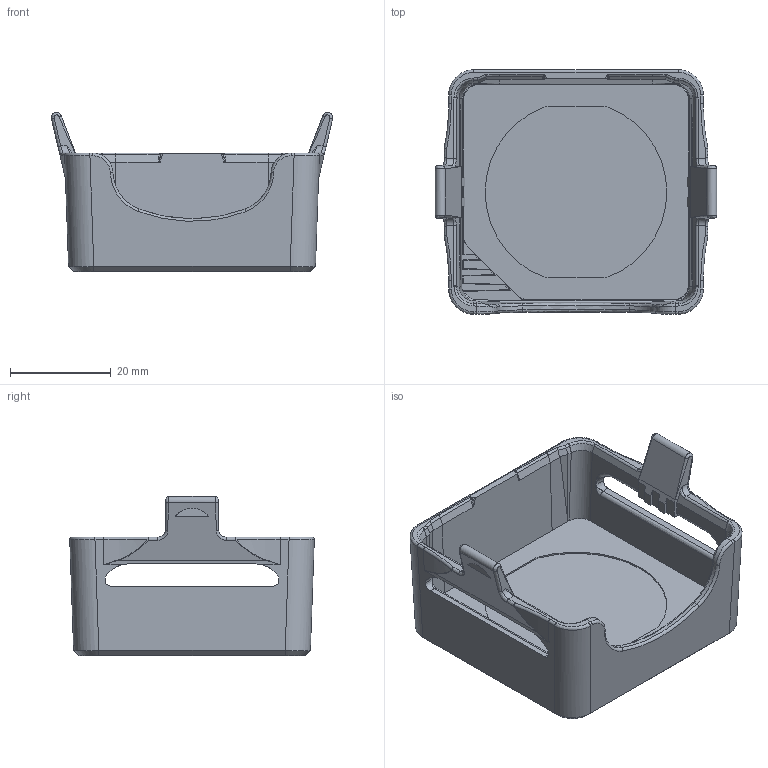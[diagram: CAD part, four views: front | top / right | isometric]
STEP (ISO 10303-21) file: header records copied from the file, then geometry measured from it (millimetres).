
FILE_DESCRIPTION(/* description */ (''),/* implementation_level */ '2;1');
FILE_NAME(/* name */ 'C:\#Vault-WorkDir\Konstruktions-Dokumente\Projekte\VISOR\Visor 2\Katalogzeichnungen\153-13556_LPC VXX (VISOR 2 Funkenschutz).stp',/* time_stamp */ '2019-01-29T08:32:33+01:00',/* author */ ('SensoPart'),/* organization */ ('SensoPart'),/* preprocessor_version */ 'ST-DEVELOPER v17',/* originating_system */ 'Autodesk Inventor 2018',/* authorisation */ '');
FILE_SCHEMA (('AUTOMOTIVE_DESIGN { 1 0 10303 214 3 1 1 }'));
Length unit declared in the file: millimetre
Products named in the file (1): GH-ENG-0027037
Bounding box: 55.76 x 48.46 x 31.51 mm (x, y, z)
Volume: 13341.4 mm3; surface area: 14369.7 mm2
Topology: 2 solids, 2 shells, 381 faces, 989 edges, 600 vertices
Faces by surface type: plane 140, bspline 122, cylinder 85, cone 26, torus 4, sphere 4
Entity records: 15649 total; most frequent: CARTESIAN_POINT 7069, ORIENTED_EDGE 1954, DIRECTION 1499, EDGE_CURVE 977, VERTEX_POINT 600, AXIS2_PLACEMENT_3D 515, LINE 469, VECTOR 469
